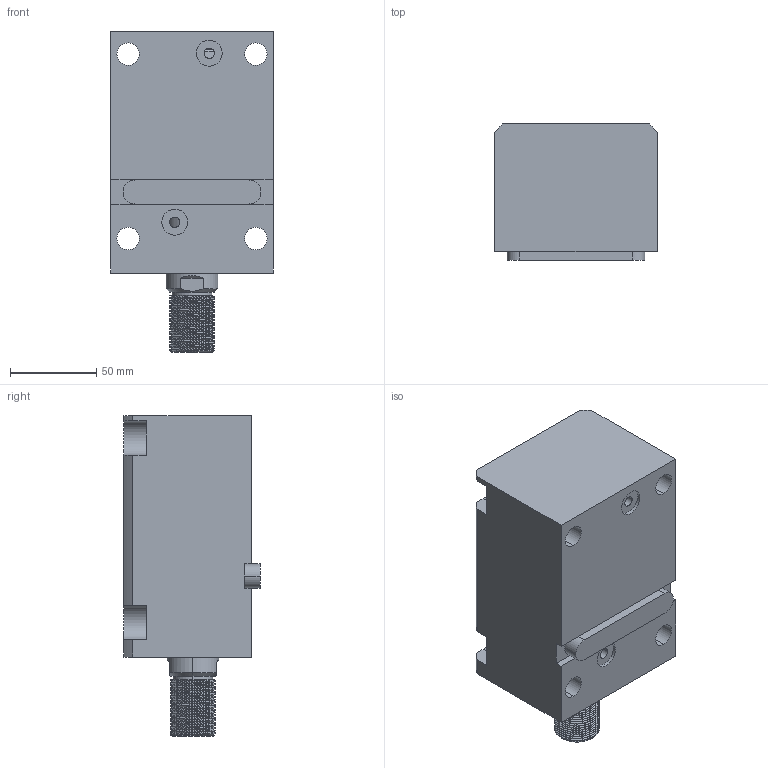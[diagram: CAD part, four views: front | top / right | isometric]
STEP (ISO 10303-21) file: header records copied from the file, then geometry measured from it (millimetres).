
FILE_DESCRIPTION (( 'STEP AP203' ), '1' );
FILE_NAME ('CHTB-LAM50-80W.STEP', '2018-05-23T11:14:33', ( '' ), ( '' ), 'SwSTEP 2.0', 'SolidWorks 2015', '' );
FILE_SCHEMA (( 'CONFIG_CONTROL_DESIGN' ));
Length unit declared in the file: millimetre
Products named in the file (4): 掛极LAM50-80W; CHTB-LAM50-80W; 活塞杆LAM50-80W; CHTM-SDMA50QG
Assembly tree (3 placements, depth 2):
  CHTB-LAM50-80W
    掛极LAM50-80W
    CHTM-SDMA50QG
    活塞杆LAM50-80W
Bounding box: 94 x 79 x 186 mm (x, y, z)
Volume: 844088.6 mm3; surface area: 132873.4 mm2
Topology: 3 solids, 3 shells, 234 faces, 652 edges, 436 vertices
Faces by surface type: cylinder 136, plane 53, bspline 16, torus 16, cone 13
Entity records: 14802 total; most frequent: CARTESIAN_POINT 8867, ORIENTED_EDGE 1296, DIRECTION 1023, EDGE_CURVE 648, VERTEX_POINT 436, AXIS2_PLACEMENT_3D 395, EDGE_LOOP 264, FACE_OUTER_BOUND 234
